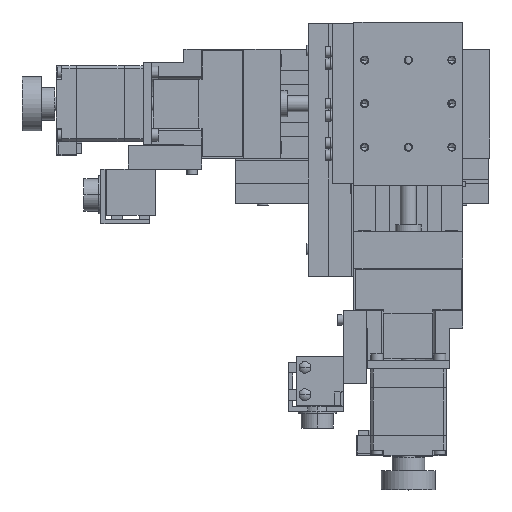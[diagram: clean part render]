
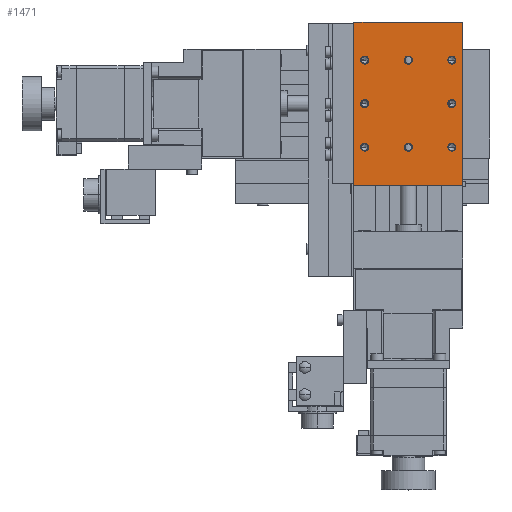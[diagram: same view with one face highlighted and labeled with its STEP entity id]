
A CAD part, top view. The second image highlights one B-rep face of the part: STEP entity #1471.
In plain terms, the highlighted planar face has unit normal (0, 0, 1).
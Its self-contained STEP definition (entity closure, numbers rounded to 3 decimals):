
#1471=ADVANCED_FACE('',(#3894,#3895,#3896,#3897,#3898,#3899,#3900,#3901,#3902),#3903,.F.);
#3894=FACE_BOUND('',#7082,.T.);
#3895=FACE_BOUND('',#7083,.T.);
#3896=FACE_BOUND('',#7084,.T.);
#3897=FACE_BOUND('',#7085,.T.);
#3898=FACE_BOUND('',#7086,.T.);
#3899=FACE_BOUND('',#7087,.T.);
#3900=FACE_BOUND('',#7088,.T.);
#3901=FACE_BOUND('',#7089,.T.);
#3902=FACE_OUTER_BOUND('',#7090,.T.);
#3903=PLANE('',#7091);
#7082=EDGE_LOOP('',(#15080,#15081));
#7083=EDGE_LOOP('',(#15082,#15083));
#7084=EDGE_LOOP('',(#15084,#15085));
#7085=EDGE_LOOP('',(#15086,#15087));
#7086=EDGE_LOOP('',(#15088,#15089));
#7087=EDGE_LOOP('',(#15090,#15091));
#7088=EDGE_LOOP('',(#15092,#15093));
#7089=EDGE_LOOP('',(#15094,#15095));
#7090=EDGE_LOOP('',(#15096,#15097,#15098,#15099));
#7091=AXIS2_PLACEMENT_3D('',#15100,#15101,#15102);
#15080=ORIENTED_EDGE('',*,*,#22609,.T.);
#15081=ORIENTED_EDGE('',*,*,#22520,.T.);
#15082=ORIENTED_EDGE('',*,*,#22588,.T.);
#15083=ORIENTED_EDGE('',*,*,#22536,.T.);
#15084=ORIENTED_EDGE('',*,*,#22637,.T.);
#15085=ORIENTED_EDGE('',*,*,#22458,.T.);
#15086=ORIENTED_EDGE('',*,*,#22638,.T.);
#15087=ORIENTED_EDGE('',*,*,#22489,.T.);
#15088=ORIENTED_EDGE('',*,*,#22639,.T.);
#15089=ORIENTED_EDGE('',*,*,#22472,.T.);
#15090=ORIENTED_EDGE('',*,*,#22561,.T.);
#15091=ORIENTED_EDGE('',*,*,#22550,.T.);
#15092=ORIENTED_EDGE('',*,*,#22640,.T.);
#15093=ORIENTED_EDGE('',*,*,#22502,.T.);
#15094=ORIENTED_EDGE('',*,*,#22634,.T.);
#15095=ORIENTED_EDGE('',*,*,#22511,.T.);
#15096=ORIENTED_EDGE('',*,*,#22641,.T.);
#15097=ORIENTED_EDGE('',*,*,#22642,.F.);
#15098=ORIENTED_EDGE('',*,*,#22620,.F.);
#15099=ORIENTED_EDGE('',*,*,#22643,.T.);
#15100=CARTESIAN_POINT('',(20.,-30.,47.));
#15101=DIRECTION('',(0.,0.,-1.0));
#15102=DIRECTION('',(1.0,0.,0.));
#22458=EDGE_CURVE('',#27470,#27474,#27476,.T.);
#22472=EDGE_CURVE('',#27496,#27500,#27502,.T.);
#22489=EDGE_CURVE('',#27528,#27532,#27534,.T.);
#22502=EDGE_CURVE('',#27551,#27553,#27555,.T.);
#22511=EDGE_CURVE('',#27568,#27570,#27572,.T.);
#22520=EDGE_CURVE('',#27585,#27587,#27589,.T.);
#22536=EDGE_CURVE('',#27611,#27613,#27615,.T.);
#22550=EDGE_CURVE('',#27637,#27641,#27643,.T.);
#22561=EDGE_CURVE('',#27641,#27637,#27658,.T.);
#22588=EDGE_CURVE('',#27613,#27611,#27705,.T.);
#22609=EDGE_CURVE('',#27587,#27585,#27734,.T.);
#22620=EDGE_CURVE('',#27752,#27754,#27755,.T.);
#22634=EDGE_CURVE('',#27570,#27568,#27776,.T.);
#22637=EDGE_CURVE('',#27474,#27470,#27779,.T.);
#22638=EDGE_CURVE('',#27532,#27528,#27780,.T.);
#22639=EDGE_CURVE('',#27500,#27496,#27781,.T.);
#22640=EDGE_CURVE('',#27553,#27551,#27782,.T.);
#22641=EDGE_CURVE('',#27783,#27784,#27785,.T.);
#22642=EDGE_CURVE('',#27754,#27784,#27786,.T.);
#22643=EDGE_CURVE('',#27752,#27783,#27787,.T.);
#27470=VERTEX_POINT('',#35168);
#27474=VERTEX_POINT('',#35173);
#27476=CIRCLE('',#35176,1.5);
#27496=VERTEX_POINT('',#35202);
#27500=VERTEX_POINT('',#35207);
#27502=CIRCLE('',#35210,1.5);
#27528=VERTEX_POINT('',#35242);
#27532=VERTEX_POINT('',#35247);
#27534=CIRCLE('',#35250,1.5);
#27551=VERTEX_POINT('',#35273);
#27553=VERTEX_POINT('',#35276);
#27555=CIRCLE('',#35279,1.5);
#27568=VERTEX_POINT('',#35294);
#27570=VERTEX_POINT('',#35297);
#27572=CIRCLE('',#35300,1.5);
#27585=VERTEX_POINT('',#35315);
#27587=VERTEX_POINT('',#35318);
#27589=CIRCLE('',#35321,1.5);
#27611=VERTEX_POINT('',#35351);
#27613=VERTEX_POINT('',#35354);
#27615=CIRCLE('',#35357,1.5);
#27637=VERTEX_POINT('',#35383);
#27641=VERTEX_POINT('',#35388);
#27643=CIRCLE('',#35391,1.5);
#27658=CIRCLE('',#35412,1.5);
#27705=CIRCLE('',#35479,1.5);
#27734=CIRCLE('',#35521,1.5);
#27752=VERTEX_POINT('',#35544);
#27754=VERTEX_POINT('',#35547);
#27755=LINE('',#35548,#35549);
#27776=CIRCLE('',#35581,1.5);
#27779=CIRCLE('',#35584,1.5);
#27780=CIRCLE('',#35585,1.5);
#27781=CIRCLE('',#35586,1.5);
#27782=CIRCLE('',#35587,1.5);
#27783=VERTEX_POINT('',#35588);
#27784=VERTEX_POINT('',#35589);
#27785=LINE('',#35590,#35591);
#27786=LINE('',#35592,#35593);
#27787=LINE('',#35594,#35595);
#35168=CARTESIAN_POINT('',(14.5,16.,47.));
#35173=CARTESIAN_POINT('',(17.5,16.,47.));
#35176=AXIS2_PLACEMENT_3D('',#42768,#42769,#42770);
#35202=CARTESIAN_POINT('',(-1.5,16.,47.));
#35207=CARTESIAN_POINT('',(1.5,16.,47.));
#35210=AXIS2_PLACEMENT_3D('',#42794,#42795,#42796);
#35242=CARTESIAN_POINT('',(-1.5,-16.,47.));
#35247=CARTESIAN_POINT('',(1.5,-16.,47.));
#35250=AXIS2_PLACEMENT_3D('',#42829,#42830,#42831);
#35273=CARTESIAN_POINT('',(-17.5,0.,47.));
#35276=CARTESIAN_POINT('',(-14.5,0.,47.));
#35279=AXIS2_PLACEMENT_3D('',#42852,#42853,#42854);
#35294=CARTESIAN_POINT('',(-17.5,16.,47.));
#35297=CARTESIAN_POINT('',(-14.5,16.,47.));
#35300=AXIS2_PLACEMENT_3D('',#42871,#42872,#42873);
#35315=CARTESIAN_POINT('',(14.5,-16.,47.));
#35318=CARTESIAN_POINT('',(17.5,-16.,47.));
#35321=AXIS2_PLACEMENT_3D('',#42890,#42891,#42892);
#35351=CARTESIAN_POINT('',(14.5,0.,47.));
#35354=CARTESIAN_POINT('',(17.5,0.,47.));
#35357=AXIS2_PLACEMENT_3D('',#42918,#42919,#42920);
#35383=CARTESIAN_POINT('',(-17.5,-16.,47.));
#35388=CARTESIAN_POINT('',(-14.5,-16.,47.));
#35391=AXIS2_PLACEMENT_3D('',#42948,#42949,#42950);
#35412=AXIS2_PLACEMENT_3D('',#42969,#42970,#42971);
#35479=AXIS2_PLACEMENT_3D('',#43010,#43011,#43012);
#35521=AXIS2_PLACEMENT_3D('',#43047,#43048,#43049);
#35544=CARTESIAN_POINT('',(20.,-30.,47.));
#35547=CARTESIAN_POINT('',(-20.,-30.,47.));
#35548=CARTESIAN_POINT('',(20.,-30.,47.));
#35549=VECTOR('',#43068,1000.0);
#35581=AXIS2_PLACEMENT_3D('',#43086,#43087,#43088);
#35584=AXIS2_PLACEMENT_3D('',#43095,#43096,#43097);
#35585=AXIS2_PLACEMENT_3D('',#43098,#43099,#43100);
#35586=AXIS2_PLACEMENT_3D('',#43101,#43102,#43103);
#35587=AXIS2_PLACEMENT_3D('',#43104,#43105,#43106);
#35588=CARTESIAN_POINT('',(20.,30.,47.));
#35589=CARTESIAN_POINT('',(-20.,30.,47.));
#35590=CARTESIAN_POINT('',(20.,30.,47.));
#35591=VECTOR('',#43107,1000.0);
#35592=CARTESIAN_POINT('',(-20.,-30.,47.));
#35593=VECTOR('',#43108,1000.0);
#35594=CARTESIAN_POINT('',(20.,-30.,47.));
#35595=VECTOR('',#43109,1000.0);
#42768=CARTESIAN_POINT('',(16.,16.,47.));
#42769=DIRECTION('',(0.,0.,-1.0));
#42770=DIRECTION('',(1.0,0.,0.));
#42794=CARTESIAN_POINT('',(0.,16.,47.));
#42795=DIRECTION('',(0.,0.,-1.0));
#42796=DIRECTION('',(1.0,0.,0.));
#42829=CARTESIAN_POINT('',(0.,-16.,47.));
#42830=DIRECTION('',(0.,0.,-1.0));
#42831=DIRECTION('',(1.0,0.,0.));
#42852=CARTESIAN_POINT('',(-16.,0.,47.));
#42853=DIRECTION('',(0.,0.,-1.0));
#42854=DIRECTION('',(1.0,0.,0.));
#42871=CARTESIAN_POINT('',(-16.,16.,47.));
#42872=DIRECTION('',(0.,0.,-1.0));
#42873=DIRECTION('',(1.0,0.,0.));
#42890=CARTESIAN_POINT('',(16.,-16.,47.));
#42891=DIRECTION('',(0.,0.,-1.0));
#42892=DIRECTION('',(1.0,0.,0.));
#42918=CARTESIAN_POINT('',(16.,0.,47.));
#42919=DIRECTION('',(0.,0.,-1.0));
#42920=DIRECTION('',(1.0,0.,0.));
#42948=CARTESIAN_POINT('',(-16.,-16.,47.));
#42949=DIRECTION('',(0.,0.,-1.0));
#42950=DIRECTION('',(1.0,0.,0.));
#42969=CARTESIAN_POINT('',(-16.,-16.,47.));
#42970=DIRECTION('',(0.,0.,-1.0));
#42971=DIRECTION('',(1.0,0.,0.));
#43010=CARTESIAN_POINT('',(16.,0.,47.));
#43011=DIRECTION('',(0.,0.,-1.0));
#43012=DIRECTION('',(1.0,0.,0.));
#43047=CARTESIAN_POINT('',(16.,-16.,47.));
#43048=DIRECTION('',(0.,0.,-1.0));
#43049=DIRECTION('',(1.0,0.,0.));
#43068=DIRECTION('',(-1.0,0.,0.));
#43086=CARTESIAN_POINT('',(-16.,16.,47.));
#43087=DIRECTION('',(0.,0.,-1.0));
#43088=DIRECTION('',(1.0,0.,0.));
#43095=CARTESIAN_POINT('',(16.,16.,47.));
#43096=DIRECTION('',(0.,0.,-1.0));
#43097=DIRECTION('',(1.0,0.,0.));
#43098=CARTESIAN_POINT('',(0.,-16.,47.));
#43099=DIRECTION('',(0.,0.,-1.0));
#43100=DIRECTION('',(1.0,0.,0.));
#43101=CARTESIAN_POINT('',(0.,16.,47.));
#43102=DIRECTION('',(0.,0.,-1.0));
#43103=DIRECTION('',(1.0,0.,0.));
#43104=CARTESIAN_POINT('',(-16.,0.,47.));
#43105=DIRECTION('',(0.,0.,-1.0));
#43106=DIRECTION('',(1.0,0.,0.));
#43107=DIRECTION('',(-1.0,0.,0.));
#43108=DIRECTION('',(0.,1.0,0.));
#43109=DIRECTION('',(0.,1.0,0.));
